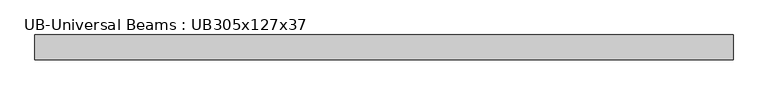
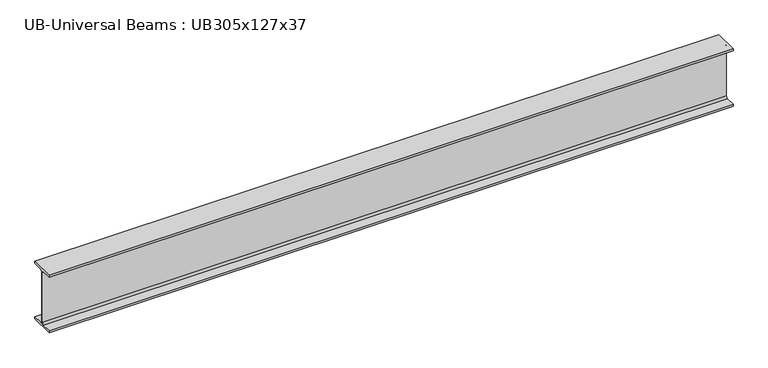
"""IFC4 building model written with IfcOpenShell, lengths in millimetres: beam geometry, UB-Universal Beams : UB305x127x37."""

from ifc_helpers import new_model, si_unit, point, frame, frame_2d, origin, place, context, project, spatial, polyline, circle_curve, trimmed, segment, composite_curve, outline, extrude, source, transform, mapped, element, save


def ub_universal_beams_ub305x127x37_b9a7bbe5(model_context):
    return source(origin(), model_context, "Body", "SweptSolid", [
        extrude(outline(composite_curve([segment(polyline([(61.7, -141.5), (61.7, -152.2), (-61.7, -152.2), (-61.7, -141.5), (-12.45, -141.5)]), True, "CONTINUOUS"), segment(trimmed(circle_curve(frame_2d((-12.45, -132.6)), 8.9), [point((-12.45, -141.5))], [point((-3.55, -132.6))], True, "CARTESIAN"), True, "CONTINUOUS"), segment(polyline([(-3.55, -132.6), (-3.55, 132.6)]), True, "CONTINUOUS"), segment(trimmed(circle_curve(frame_2d((-12.45, 132.6)), 8.9), [point((-3.55, 132.6))], [point((-12.45, 141.5))], True, "CARTESIAN"), True, "CONTINUOUS"), segment(polyline([(-12.45, 141.5), (-61.7, 141.5), (-61.7, 152.2), (61.7, 152.2), (61.7, 141.5), (12.45, 141.5)]), True, "CONTINUOUS"), segment(trimmed(circle_curve(frame_2d((12.45, 132.6)), 8.9), [point((12.45, 141.5))], [point((3.55, 132.6))], True, "CARTESIAN"), True, "CONTINUOUS"), segment(polyline([(3.55, 132.6), (3.55, -132.6)]), True, "CONTINUOUS"), segment(trimmed(circle_curve(frame_2d((12.45, -132.6)), 8.9), [point((3.55, -132.6))], [point((12.45, -141.5))], True, "CARTESIAN"), True, "CONTINUOUS"), segment(polyline([(12.45, -141.5), (61.7, -141.5)]), True, "CONTINUOUS")], self_intersect=False)), frame((-1707.9, 0.0, 0.0), z_axis=(1.0, 0.0, 0.0), x_axis=(0.0, 1.0, 0.0)), (0.0, 0.0, 1.0), 3443.3),
    ])


if __name__ == "__main__":
    model = new_model("IFC4")
    model_context = context("Model", 3, world=origin())
    ifc_project = project(units=[si_unit("LENGTHUNIT", "METRE", prefix="MILLI")], contexts=[model_context])
    site = spatial("IfcSite", under=ifc_project)
    building = spatial("IfcBuilding", under=site)
    placement = place(None, origin())
    ub_universal_beams_ub305x127x37_shape = ub_universal_beams_ub305x127x37_b9a7bbe5(model_context)
    element("IfcBeam", 1, ObjectType="UB-Universal Beams : UB305x127x37", at=placement, inside=building, context=model_context, shape_type="MappedRepresentation", body=[
        mapped(ub_universal_beams_ub305x127x37_shape, transform((0.0, 0.0, 0.0), x_axis=(1.0, 0.0, 0.0), y_axis=(0.0, 1.0, 0.0), z_axis=(0.0, 0.0, 1.0))),
    ])
    save(model, "model.ifc")
